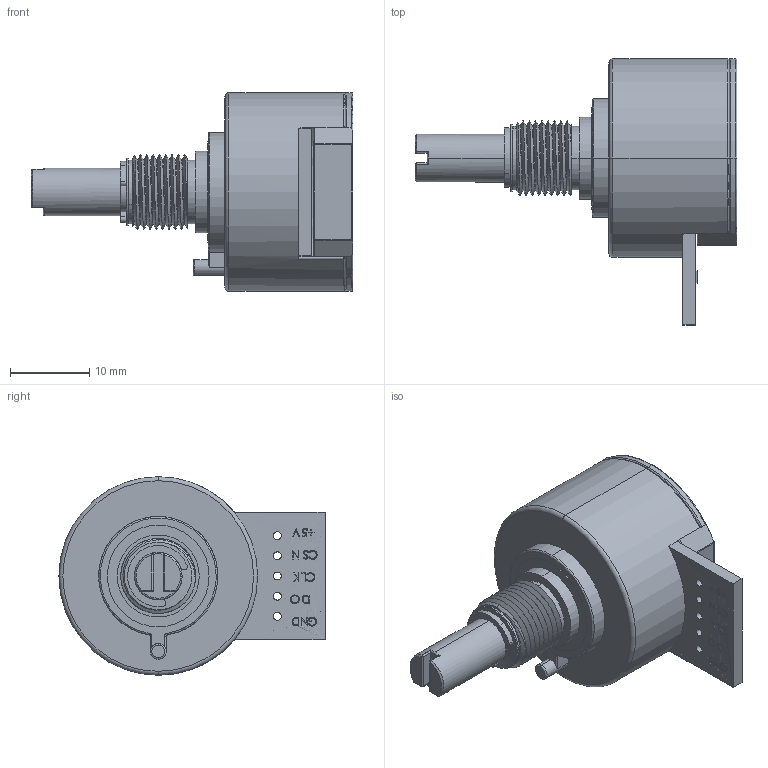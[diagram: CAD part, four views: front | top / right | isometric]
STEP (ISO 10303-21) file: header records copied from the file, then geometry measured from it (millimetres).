
FILE_DESCRIPTION (( 'STEP AP214' ), '1' );
FILE_NAME ('MAB25_SER.STEP', '2010-12-02T14:08:59', ( 'Mega' ), ( '' ), 'SwSTEP 2.0', 'SolidWorks 2007', '' );
FILE_SCHEMA (( 'AUTOMOTIVE_DESIGN' ));
Length unit declared in the file: millimetre
Products named in the file (1): MAB25_SER
Bounding box: 40.5 x 33.5 x 25 mm (x, y, z)
Surface area: 4291.2 mm2 (no closed solid volume)
Topology: 0 solids, 3 shells, 211 faces, 608 edges, 423 vertices
Faces by surface type: plane 103, cylinder 61, bspline 19, torus 18, sphere 5, cone 5
Entity records: 12418 total; most frequent: CARTESIAN_POINT 5021, ORIENTED_EDGE 1161, DIRECTION 949, EDGE_CURVE 602, VERTEX_POINT 422, AXIS2_PLACEMENT_3D 349, EDGE_LOOP 255, VECTOR 251
